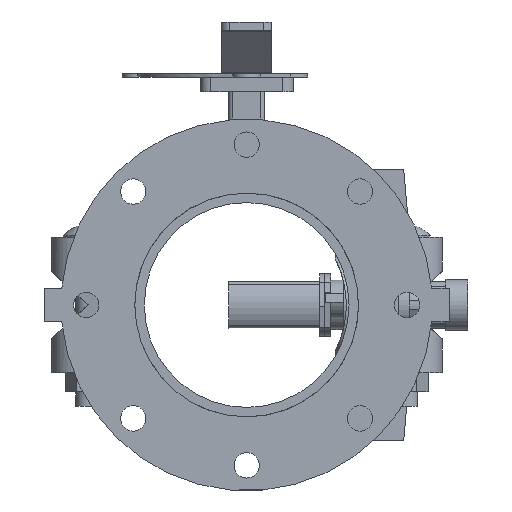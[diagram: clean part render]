
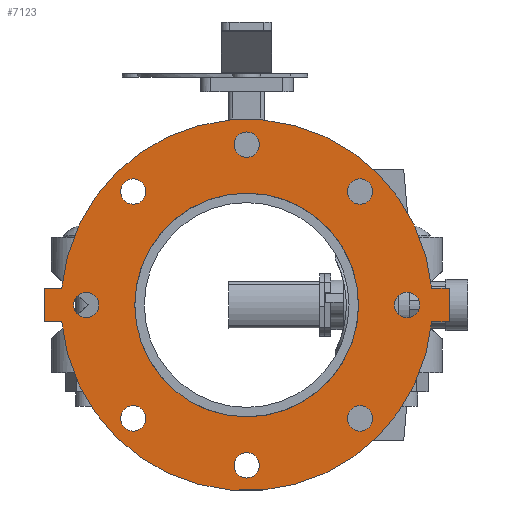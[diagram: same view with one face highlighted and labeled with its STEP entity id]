
A CAD part, front view. The second image highlights one B-rep face of the part: STEP entity #7123.
In plain terms, the highlighted planar face has unit normal (0, -1, 0) as drawn and (0, 0, -1) by its records, which use the part's own axes.
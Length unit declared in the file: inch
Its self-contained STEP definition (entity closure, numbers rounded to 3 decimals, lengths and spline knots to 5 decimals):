
#157=FACE_BOUND('',#878,.T.);
#158=FACE_BOUND('',#879,.T.);
#159=FACE_BOUND('',#880,.T.);
#160=FACE_BOUND('',#881,.T.);
#161=FACE_BOUND('',#882,.T.);
#162=FACE_BOUND('',#883,.T.);
#163=FACE_BOUND('',#884,.T.);
#164=FACE_BOUND('',#885,.T.);
#165=FACE_BOUND('',#886,.T.);
#249=PLANE('',#7711);
#484=FACE_OUTER_BOUND('',#877,.T.);
#877=EDGE_LOOP('',(#4575,#4576,#4577,#4578,#4579,#4580,#4581,#4582));
#878=EDGE_LOOP('',(#4583));
#879=EDGE_LOOP('',(#4584));
#880=EDGE_LOOP('',(#4585));
#881=EDGE_LOOP('',(#4586));
#882=EDGE_LOOP('',(#4587));
#883=EDGE_LOOP('',(#4588));
#884=EDGE_LOOP('',(#4589));
#885=EDGE_LOOP('',(#4590));
#886=EDGE_LOOP('',(#4591,#4592));
#1362=LINE('',#10786,#1909);
#1363=LINE('',#10788,#1910);
#1364=LINE('',#10790,#1911);
#1365=LINE('',#10794,#1912);
#1366=LINE('',#10796,#1913);
#1367=LINE('',#10797,#1914);
#1909=VECTOR('',#8582,0.3937);
#1910=VECTOR('',#8583,0.3937);
#1911=VECTOR('',#8584,0.3937);
#1912=VECTOR('',#8587,0.3937);
#1913=VECTOR('',#8588,0.3937);
#1914=VECTOR('',#8589,0.3937);
#2449=CIRCLE('',#7689,0.375);
#2451=CIRCLE('',#7692,0.375);
#2453=CIRCLE('',#7695,0.375);
#2455=CIRCLE('',#7698,0.375);
#2457=CIRCLE('',#7701,0.375);
#2459=CIRCLE('',#7704,0.375);
#2461=CIRCLE('',#7707,0.375);
#2463=CIRCLE('',#7710,0.375);
#2464=CIRCLE('',#7712,5.5);
#2465=CIRCLE('',#7713,5.5);
#2466=CIRCLE('',#7714,3.3125);
#2467=CIRCLE('',#7715,3.3125);
#2849=VERTEX_POINT('',#10736);
#2851=VERTEX_POINT('',#10742);
#2853=VERTEX_POINT('',#10748);
#2855=VERTEX_POINT('',#10754);
#2857=VERTEX_POINT('',#10760);
#2859=VERTEX_POINT('',#10766);
#2861=VERTEX_POINT('',#10772);
#2863=VERTEX_POINT('',#10778);
#2864=VERTEX_POINT('',#10782);
#2865=VERTEX_POINT('',#10783);
#2866=VERTEX_POINT('',#10785);
#2867=VERTEX_POINT('',#10787);
#2868=VERTEX_POINT('',#10789);
#2869=VERTEX_POINT('',#10791);
#2870=VERTEX_POINT('',#10793);
#2871=VERTEX_POINT('',#10795);
#2872=VERTEX_POINT('',#10798);
#2873=VERTEX_POINT('',#10799);
#3530=EDGE_CURVE('',#2849,#2849,#2449,.T.);
#3533=EDGE_CURVE('',#2851,#2851,#2451,.T.);
#3536=EDGE_CURVE('',#2853,#2853,#2453,.T.);
#3539=EDGE_CURVE('',#2855,#2855,#2455,.T.);
#3542=EDGE_CURVE('',#2857,#2857,#2457,.T.);
#3545=EDGE_CURVE('',#2859,#2859,#2459,.T.);
#3548=EDGE_CURVE('',#2861,#2861,#2461,.T.);
#3551=EDGE_CURVE('',#2863,#2863,#2463,.T.);
#3552=EDGE_CURVE('',#2864,#2865,#2464,.T.);
#3553=EDGE_CURVE('',#2865,#2866,#1362,.T.);
#3554=EDGE_CURVE('',#2866,#2867,#1363,.T.);
#3555=EDGE_CURVE('',#2867,#2868,#1364,.T.);
#3556=EDGE_CURVE('',#2868,#2869,#2465,.T.);
#3557=EDGE_CURVE('',#2869,#2870,#1365,.T.);
#3558=EDGE_CURVE('',#2870,#2871,#1366,.T.);
#3559=EDGE_CURVE('',#2871,#2864,#1367,.T.);
#3560=EDGE_CURVE('',#2872,#2873,#2466,.T.);
#3561=EDGE_CURVE('',#2873,#2872,#2467,.T.);
#4575=ORIENTED_EDGE('',*,*,#3552,.T.);
#4576=ORIENTED_EDGE('',*,*,#3553,.T.);
#4577=ORIENTED_EDGE('',*,*,#3554,.T.);
#4578=ORIENTED_EDGE('',*,*,#3555,.T.);
#4579=ORIENTED_EDGE('',*,*,#3556,.T.);
#4580=ORIENTED_EDGE('',*,*,#3557,.T.);
#4581=ORIENTED_EDGE('',*,*,#3558,.T.);
#4582=ORIENTED_EDGE('',*,*,#3559,.T.);
#4583=ORIENTED_EDGE('',*,*,#3530,.T.);
#4584=ORIENTED_EDGE('',*,*,#3533,.T.);
#4585=ORIENTED_EDGE('',*,*,#3536,.T.);
#4586=ORIENTED_EDGE('',*,*,#3539,.T.);
#4587=ORIENTED_EDGE('',*,*,#3542,.T.);
#4588=ORIENTED_EDGE('',*,*,#3545,.T.);
#4589=ORIENTED_EDGE('',*,*,#3548,.T.);
#4590=ORIENTED_EDGE('',*,*,#3551,.T.);
#4591=ORIENTED_EDGE('',*,*,#3560,.T.);
#4592=ORIENTED_EDGE('',*,*,#3561,.T.);
#7123=ADVANCED_FACE('',(#484,#157,#158,#159,#160,#161,#162,#163,#164,#165),
#249,.T.);
#7689=AXIS2_PLACEMENT_3D('',#10738,#8527,#8528);
#7692=AXIS2_PLACEMENT_3D('',#10744,#8534,#8535);
#7695=AXIS2_PLACEMENT_3D('',#10750,#8541,#8542);
#7698=AXIS2_PLACEMENT_3D('',#10756,#8548,#8549);
#7701=AXIS2_PLACEMENT_3D('',#10762,#8555,#8556);
#7704=AXIS2_PLACEMENT_3D('',#10768,#8562,#8563);
#7707=AXIS2_PLACEMENT_3D('',#10774,#8569,#8570);
#7710=AXIS2_PLACEMENT_3D('',#10780,#8576,#8577);
#7711=AXIS2_PLACEMENT_3D('',#10781,#8578,#8579);
#7712=AXIS2_PLACEMENT_3D('',#10784,#8580,#8581);
#7713=AXIS2_PLACEMENT_3D('',#10792,#8585,#8586);
#7714=AXIS2_PLACEMENT_3D('',#10800,#8590,#8591);
#7715=AXIS2_PLACEMENT_3D('',#10801,#8592,#8593);
#8527=DIRECTION('center_axis',(0.,0.,1.));
#8528=DIRECTION('ref_axis',(-0.707,0.707,0.));
#8534=DIRECTION('center_axis',(0.,0.,1.));
#8535=DIRECTION('ref_axis',(0.,1.,0.));
#8541=DIRECTION('center_axis',(0.,0.,1.));
#8542=DIRECTION('ref_axis',(0.707,0.707,0.));
#8548=DIRECTION('center_axis',(0.,0.,1.));
#8549=DIRECTION('ref_axis',(1.,0.,0.));
#8555=DIRECTION('center_axis',(0.,0.,1.));
#8556=DIRECTION('ref_axis',(0.707,-0.707,0.));
#8562=DIRECTION('center_axis',(0.,0.,1.));
#8563=DIRECTION('ref_axis',(0.,-1.,0.));
#8569=DIRECTION('center_axis',(0.,0.,1.));
#8570=DIRECTION('ref_axis',(-0.707,-0.707,0.));
#8576=DIRECTION('center_axis',(0.,0.,1.));
#8577=DIRECTION('ref_axis',(-1.,0.,0.));
#8578=DIRECTION('center_axis',(0.,0.,-1.));
#8579=DIRECTION('ref_axis',(-1.,0.,0.));
#8580=DIRECTION('center_axis',(0.,0.,-1.));
#8581=DIRECTION('ref_axis',(-1.,0.,0.));
#8582=DIRECTION('',(0.,1.,0.));
#8583=DIRECTION('',(1.,0.,0.));
#8584=DIRECTION('',(0.,-1.,0.));
#8585=DIRECTION('center_axis',(0.,0.,-1.));
#8586=DIRECTION('ref_axis',(-1.,0.,0.));
#8587=DIRECTION('',(0.,-1.,0.));
#8588=DIRECTION('',(-1.,0.,0.));
#8589=DIRECTION('',(0.,1.,0.));
#8590=DIRECTION('center_axis',(0.,0.,1.));
#8591=DIRECTION('ref_axis',(-1.,0.,0.));
#8592=DIRECTION('center_axis',(0.,0.,1.));
#8593=DIRECTION('ref_axis',(-1.,0.,0.));
#10736=CARTESIAN_POINT('',(-3.09359,3.09359,-0.5));
#10738=CARTESIAN_POINT('Origin',(-3.35876,3.35876,-0.5));
#10742=CARTESIAN_POINT('',(0.,4.375,-0.5));
#10744=CARTESIAN_POINT('Origin',(0.,4.75,-0.5));
#10748=CARTESIAN_POINT('',(3.09359,3.09359,-0.5));
#10750=CARTESIAN_POINT('Origin',(3.35876,3.35876,-0.5));
#10754=CARTESIAN_POINT('',(4.375,0.,-0.5));
#10756=CARTESIAN_POINT('Origin',(4.75,0.,-0.5));
#10760=CARTESIAN_POINT('',(3.09359,-3.09359,-0.5));
#10762=CARTESIAN_POINT('Origin',(3.35876,-3.35876,-0.5));
#10766=CARTESIAN_POINT('',(0.,-4.375,-0.5));
#10768=CARTESIAN_POINT('Origin',(0.,-4.75,-0.5));
#10772=CARTESIAN_POINT('',(-3.09359,-3.09359,-0.5));
#10774=CARTESIAN_POINT('Origin',(-3.35876,-3.35876,-0.5));
#10778=CARTESIAN_POINT('',(-4.375,0.,-0.5));
#10780=CARTESIAN_POINT('Origin',(-4.75,0.,-0.5));
#10781=CARTESIAN_POINT('Origin',(0.,0.,-0.5));
#10782=CARTESIAN_POINT('',(-0.5,-5.47723,-0.5));
#10783=CARTESIAN_POINT('',(-0.5,5.47723,-0.5));
#10784=CARTESIAN_POINT('Origin',(0.,0.,-0.5));
#10785=CARTESIAN_POINT('',(-0.5,6.,-0.5));
#10786=CARTESIAN_POINT('',(-0.5,-6.,-0.5));
#10787=CARTESIAN_POINT('',(0.5,6.,-0.5));
#10788=CARTESIAN_POINT('',(-0.5,6.,-0.5));
#10789=CARTESIAN_POINT('',(0.5,5.47723,-0.5));
#10790=CARTESIAN_POINT('',(0.5,6.,-0.5));
#10791=CARTESIAN_POINT('',(0.5,-5.47723,-0.5));
#10792=CARTESIAN_POINT('Origin',(0.,0.,-0.5));
#10793=CARTESIAN_POINT('',(0.5,-6.,-0.5));
#10794=CARTESIAN_POINT('',(0.5,6.,-0.5));
#10795=CARTESIAN_POINT('',(-0.5,-6.,-0.5));
#10796=CARTESIAN_POINT('',(0.5,-6.,-0.5));
#10797=CARTESIAN_POINT('',(-0.5,-6.,-0.5));
#10798=CARTESIAN_POINT('',(0.5,3.27455,-0.5));
#10799=CARTESIAN_POINT('',(3.3125,0.,-0.5));
#10800=CARTESIAN_POINT('Origin',(0.,0.,-0.5));
#10801=CARTESIAN_POINT('Origin',(0.,0.,-0.5));
